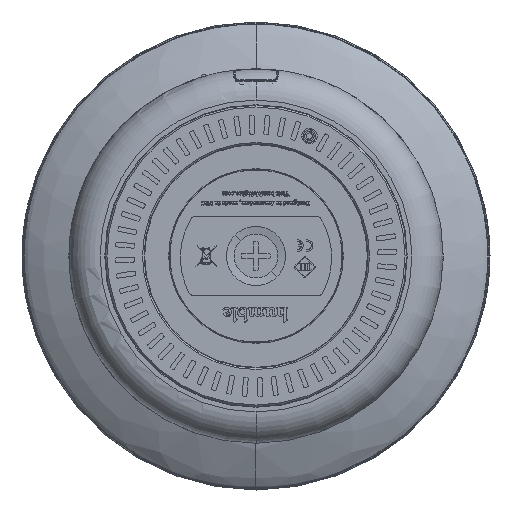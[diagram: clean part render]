
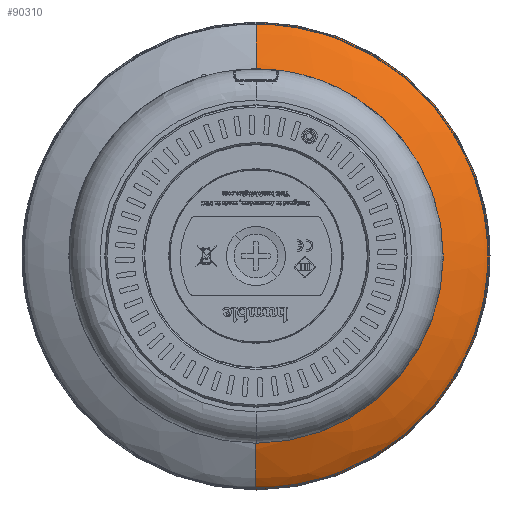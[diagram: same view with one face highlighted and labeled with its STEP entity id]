
A CAD part, front view. The second image highlights one B-rep face of the part: STEP entity #90310.
In plain terms, the highlighted free-form (B-spline) face has degree [3, 3] with [5, 4] control points.
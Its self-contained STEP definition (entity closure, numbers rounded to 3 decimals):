
#1875 = CARTESIAN_POINT ( 'NONE',  ( 0., 195.439, -11.9 ) ) ;
#6684 = CARTESIAN_POINT ( 'NONE',  ( 0., 212.984, -75.001 ) ) ;
#10234 = CARTESIAN_POINT ( 'NONE',  ( 0., 210.505, 74.887 ) ) ;
#10938 = EDGE_CURVE ( 'NONE', #112536, #79154, #11979, .T. ) ;
#11979 = CIRCLE ( 'NONE', #112547, 11.9 ) ;
#12876 = CARTESIAN_POINT ( 'NONE',  ( 149.775, 210.505, -74.887 ) ) ;
#13556 = CARTESIAN_POINT ( 'NONE',  ( 0., 195.533, -14.066 ) ) ;
#14743 = VERTEX_POINT ( 'NONE', #91648 ) ;
#14833 = B_SPLINE_CURVE_WITH_KNOTS ( 'NONE', 3,
 ( #104051, #48151, #84233, #10234, #17992 ),
 .UNSPECIFIED., .F., .F.,
 ( 4, 1, 4 ),
 ( 0., 0.055, 1. ),
 .UNSPECIFIED. ) ;
#17992 = CARTESIAN_POINT ( 'NONE',  ( 0., 212.984, 75.001 ) ) ;
#20282 =( BOUNDED_SURFACE ( )  B_SPLINE_SURFACE ( 3, 3, ( 
 ( #75933, #84166, #105337, #1875 ),
 ( #66337, #116990, #65646, #13556 ),
 ( #106682, #43003, #42337, #117672 ),
 ( #43668, #108029, #12876, #125912 ),
 ( #64951, #54688, #64289, #23803 ) ),
 .UNSPECIFIED., .F., .F., .T. ) 
 B_SPLINE_SURFACE_WITH_KNOTS ( ( 4, 1, 4 ),
 ( 4, 4 ),
 ( 0.009, 0.061, 0.969 ),
 ( 0., 1. ),
 .UNSPECIFIED. ) 
 GEOMETRIC_REPRESENTATION_ITEM ( )  RATIONAL_B_SPLINE_SURFACE ( (
 ( 1., 0.333, 0.333, 1.),
 ( 1., 0.333, 0.333, 1.),
 ( 1., 0.333, 0.333, 1.),
 ( 1., 0.333, 0.333, 1.),
 ( 1., 0.333, 0.333, 1.) ) ) 
 REPRESENTATION_ITEM ( '' )  SURFACE ( )  );
#23803 = CARTESIAN_POINT ( 'NONE',  ( 0., 212.984, -75.001 ) ) ;
#26755 = CARTESIAN_POINT ( 'NONE',  ( 0., 195.439, -11.9 ) ) ;
#28142 = CIRCLE ( 'NONE', #124431, 75.001 ) ;
#28600 = CARTESIAN_POINT ( 'NONE',  ( 0., 212.984, 0. ) ) ;
#33824 = VERTEX_POINT ( 'NONE', #6684 ) ;
#38814 = ORIENTED_EDGE ( 'NONE', *, *, #57852, .F. ) ;
#42337 = CARTESIAN_POINT ( 'NONE',  ( 105.572, 197.884, -52.786 ) ) ;
#43003 = CARTESIAN_POINT ( 'NONE',  ( 105.572, 197.884, 52.786 ) ) ;
#43668 = CARTESIAN_POINT ( 'NONE',  ( 0., 210.505, 74.887 ) ) ;
#47801 = CARTESIAN_POINT ( 'NONE',  ( 0., 195.439, -11.9 ) ) ;
#48151 = CARTESIAN_POINT ( 'NONE',  ( 0., 195.533, 14.066 ) ) ;
#54688 = CARTESIAN_POINT ( 'NONE',  ( 150.001, 212.984, 75.001 ) ) ;
#57852 = EDGE_CURVE ( 'NONE', #14743, #33824, #28142, .T. ) ;
#58809 = CARTESIAN_POINT ( 'NONE',  ( 0., 212.984, -75.001 ) ) ;
#59565 = EDGE_CURVE ( 'NONE', #79154, #33824, #79804, .T. ) ;
#64289 = CARTESIAN_POINT ( 'NONE',  ( 150.001, 212.984, -75.001 ) ) ;
#64951 = CARTESIAN_POINT ( 'NONE',  ( 0., 212.984, 75.001 ) ) ;
#65646 = CARTESIAN_POINT ( 'NONE',  ( 28.131, 195.533, -14.066 ) ) ;
#66337 = CARTESIAN_POINT ( 'NONE',  ( 0., 195.533, 14.066 ) ) ;
#69091 = DIRECTION ( 'NONE',  ( 0., 1., 0. ) ) ;
#75933 = CARTESIAN_POINT ( 'NONE',  ( 0., 195.439, 11.9 ) ) ;
#79154 = VERTEX_POINT ( 'NONE', #26755 ) ;
#79804 = B_SPLINE_CURVE_WITH_KNOTS ( 'NONE', 3,
 ( #47801, #108084, #130720, #118405, #58809 ),
 .UNSPECIFIED., .F., .F.,
 ( 4, 1, 4 ),
 ( 0., 0.055, 1. ),
 .UNSPECIFIED. ) ;
#84166 = CARTESIAN_POINT ( 'NONE',  ( 23.8, 195.439, 11.9 ) ) ;
#84233 = CARTESIAN_POINT ( 'NONE',  ( 0., 197.884, 52.786 ) ) ;
#89987 = ORIENTED_EDGE ( 'NONE', *, *, #102530, .F. ) ;
#90310 = ADVANCED_FACE ( 'NONE', ( #133527 ), #20282, .F. ) ;
#91354 = ORIENTED_EDGE ( 'NONE', *, *, #10938, .T. ) ;
#91648 = CARTESIAN_POINT ( 'NONE',  ( 0., 212.984, 75.001 ) ) ;
#97102 = DIRECTION ( 'NONE',  ( 0., 1., 0. ) ) ;
#102530 = EDGE_CURVE ( 'NONE', #112536, #14743, #14833, .T. ) ;
#104051 = CARTESIAN_POINT ( 'NONE',  ( 0., 195.439, 11.9 ) ) ;
#104829 = EDGE_LOOP ( 'NONE', ( #91354, #112112, #38814, #89987 ) ) ;
#105337 = CARTESIAN_POINT ( 'NONE',  ( 23.8, 195.439, -11.9 ) ) ;
#106682 = CARTESIAN_POINT ( 'NONE',  ( 0., 197.884, 52.786 ) ) ;
#108029 = CARTESIAN_POINT ( 'NONE',  ( 149.775, 210.505, 74.887 ) ) ;
#108084 = CARTESIAN_POINT ( 'NONE',  ( 0., 195.533, -14.066 ) ) ;
#112112 = ORIENTED_EDGE ( 'NONE', *, *, #59565, .T. ) ;
#112536 = VERTEX_POINT ( 'NONE', #128905 ) ;
#112547 = AXIS2_PLACEMENT_3D ( 'NONE', #135550, #97102, #126619 ) ;
#116990 = CARTESIAN_POINT ( 'NONE',  ( 28.131, 195.533, 14.066 ) ) ;
#117672 = CARTESIAN_POINT ( 'NONE',  ( 0., 197.884, -52.786 ) ) ;
#118405 = CARTESIAN_POINT ( 'NONE',  ( 0., 210.505, -74.887 ) ) ;
#124431 = AXIS2_PLACEMENT_3D ( 'NONE', #28600, #69091, #133402 ) ;
#125912 = CARTESIAN_POINT ( 'NONE',  ( 0., 210.505, -74.887 ) ) ;
#126619 = DIRECTION ( 'NONE',  ( 0., 0., 1. ) ) ;
#128905 = CARTESIAN_POINT ( 'NONE',  ( 0., 195.439, 11.9 ) ) ;
#130720 = CARTESIAN_POINT ( 'NONE',  ( 0., 197.884, -52.786 ) ) ;
#133402 = DIRECTION ( 'NONE',  ( 0., 0., 1. ) ) ;
#133527 = FACE_OUTER_BOUND ( 'NONE', #104829, .T. ) ;
#135550 = CARTESIAN_POINT ( 'NONE',  ( 0., 195.439, 0. ) ) ;
